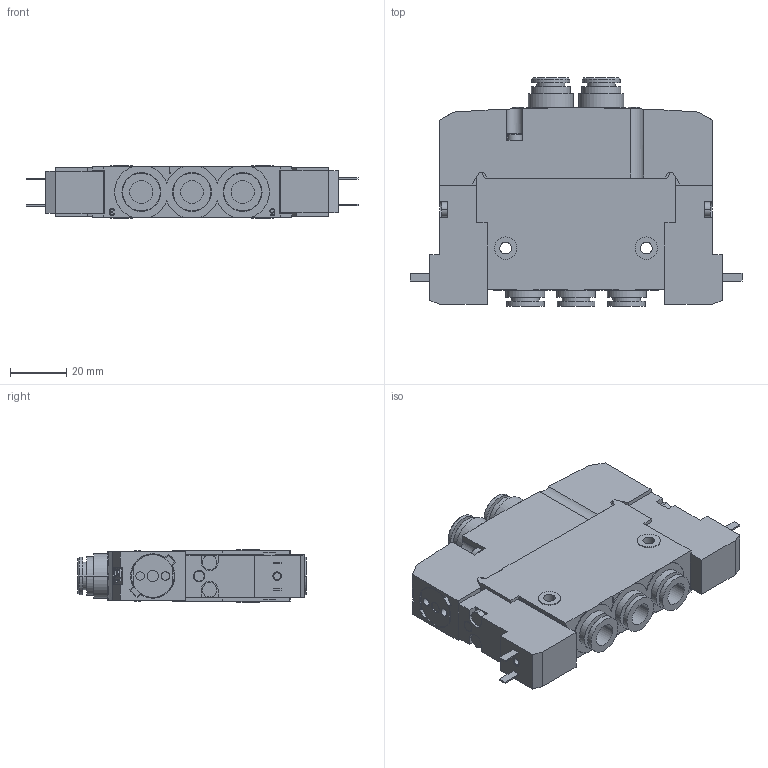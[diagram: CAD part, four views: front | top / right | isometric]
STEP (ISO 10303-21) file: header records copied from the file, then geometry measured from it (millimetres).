
FILE_DESCRIPTION((''),'2;1');
FILE_NAME('R422103178_ASM','2023-09-25T14:24:49',('THD3HC'),(''),'CREO PARAMETRIC BY PTC INC, 2020044','CREO PARAMETRIC BY PTC INC, 2020044','');
FILE_SCHEMA(('CONFIG_CONTROL_DESIGN','SHAPE_APPEARANCE_LAYERS_GROUPS'));
Length unit declared in the file: millimetre
Products named in the file (4): R422103178-A; R422103178-C; R422103178-D; R422103178_ASM
Assembly tree (4 placements, depth 2):
  R422103178_ASM
    R422103178-A
    R422103178-C  x2
    R422103178-D
Bounding box: 118 x 81.3 x 18.7 mm (x, y, z)
Volume: 109679.8 mm3; surface area: 33276.9 mm2
Topology: 4 solids, 4 shells, 773 faces, 1980 edges, 1306 vertices
Faces by surface type: plane 559, cylinder 186, cone 24, torus 4
Entity records: 29041 total; most frequent: CARTESIAN_POINT 4293, ORIENTED_EDGE 3730, DIRECTION 3656, PRESENTATION_STYLE_ASSIGNMENT 1956, STYLED_ITEM 1868, CURVE_STYLE 1865, EDGE_CURVE 1865, VECTOR 1438
